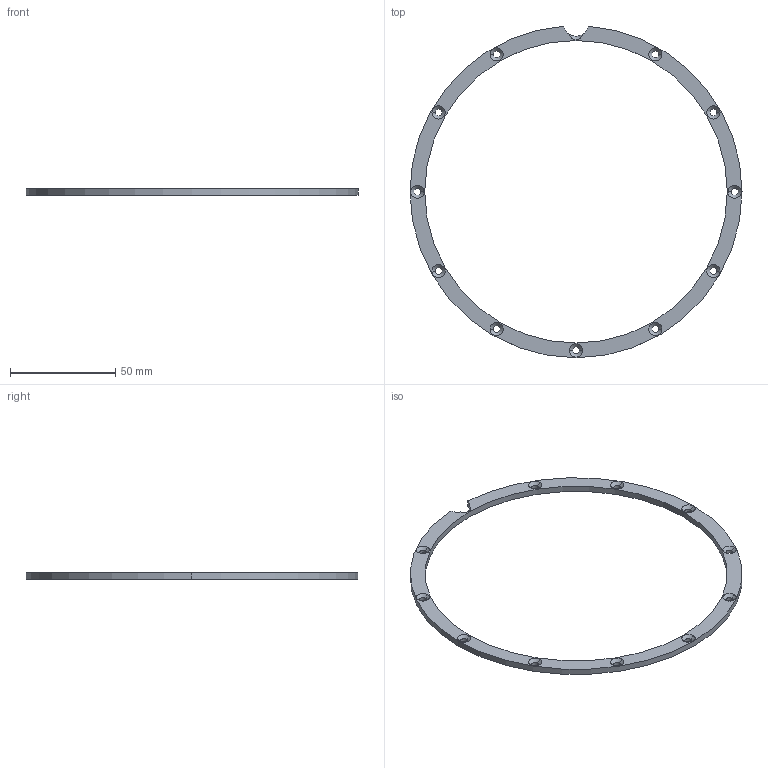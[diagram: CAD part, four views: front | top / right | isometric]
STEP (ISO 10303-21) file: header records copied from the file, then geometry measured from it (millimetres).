
FILE_DESCRIPTION (( 'STEP AP203' ), '1' );
FILE_NAME ('bearing-cover.STEP', '2024-07-01T06:41:33', ( '' ), ( '' ), 'SwSTEP 2.0', 'SolidWorks 2021', '' );
FILE_SCHEMA (( 'CONFIG_CONTROL_DESIGN' ));
Length unit declared in the file: millimetre
Products named in the file (1): bearing-cover
Bounding box: 158 x 157.78 x 3 mm (x, y, z)
Volume: 9367.3 mm3; surface area: 9493.6 mm2
Topology: 1 solids, 1 shells, 55 faces, 137 edges, 84 vertices
Faces by surface type: cylinder 30, cone 23, plane 2
Entity records: 1793 total; most frequent: DIRECTION 330, CARTESIAN_POINT 291, ORIENTED_EDGE 274, AXIS2_PLACEMENT_3D 139, EDGE_CURVE 137, VERTEX_POINT 84, CIRCLE 83, EDGE_LOOP 79
